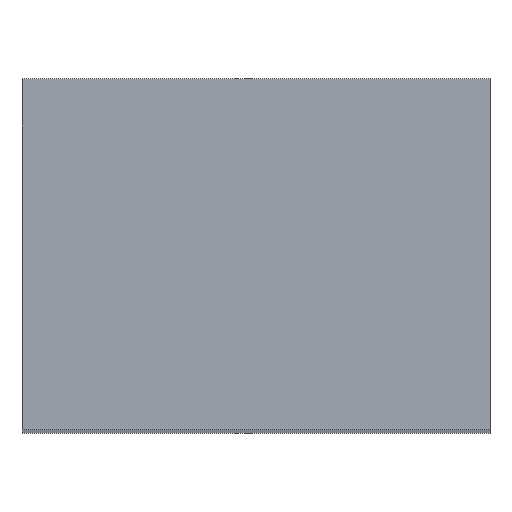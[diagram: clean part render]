
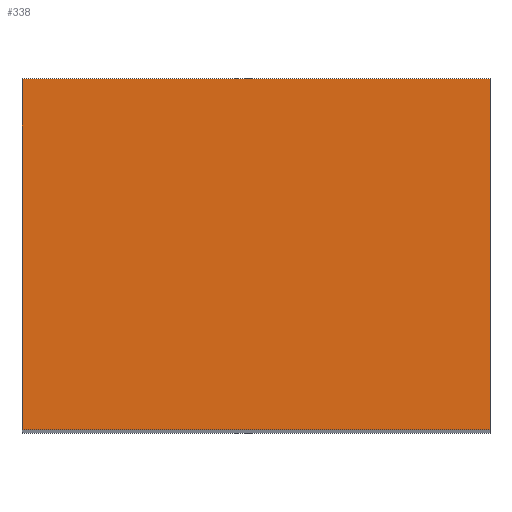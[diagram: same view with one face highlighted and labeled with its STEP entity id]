
A CAD part, top view. The second image highlights one B-rep face of the part: STEP entity #338.
In plain terms, the highlighted planar face has unit normal (0, 0, 1).
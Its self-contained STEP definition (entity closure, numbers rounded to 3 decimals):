
#24 = VERTEX_POINT('',#25);
#25 = CARTESIAN_POINT('',(132.,-90.913,90.));
#32 = PLANE('',#33);
#33 = AXIS2_PLACEMENT_3D('',#34,#35,#36);
#34 = CARTESIAN_POINT('',(132.,-90.913,74.));
#35 = DIRECTION('',(1.,0.,-0.));
#36 = DIRECTION('',(0.,0.,1.));
#44 = PLANE('',#45);
#45 = AXIS2_PLACEMENT_3D('',#46,#47,#48);
#46 = CARTESIAN_POINT('',(132.,-90.913,74.));
#47 = DIRECTION('',(-0.,1.,0.));
#48 = DIRECTION('',(0.,0.,1.));
#85 = VERTEX_POINT('',#86);
#86 = CARTESIAN_POINT('',(132.,-87.913,90.));
#100 = PLANE('',#101);
#101 = AXIS2_PLACEMENT_3D('',#102,#103,#104);
#102 = CARTESIAN_POINT('',(132.,-87.913,74.));
#103 = DIRECTION('',(-0.,1.,0.));
#104 = DIRECTION('',(0.,0.,1.));
#112 = EDGE_CURVE('',#24,#85,#113,.T.);
#113 = SURFACE_CURVE('',#114,(#118,#125),.PCURVE_S1.);
#114 = LINE('',#115,#116);
#115 = CARTESIAN_POINT('',(132.,-90.913,90.));
#116 = VECTOR('',#117,1.);
#117 = DIRECTION('',(-0.,1.,0.));
#118 = PCURVE('',#32,#119);
#119 = DEFINITIONAL_REPRESENTATION('',(#120),#124);
#120 = LINE('',#121,#122);
#121 = CARTESIAN_POINT('',(16.,0.));
#122 = VECTOR('',#123,1.);
#123 = DIRECTION('',(0.,-1.));
#124 = ( GEOMETRIC_REPRESENTATION_CONTEXT(2) 
PARAMETRIC_REPRESENTATION_CONTEXT() REPRESENTATION_CONTEXT('2D SPACE',''
  ) );
#125 = PCURVE('',#126,#131);
#126 = PLANE('',#127);
#127 = AXIS2_PLACEMENT_3D('',#128,#129,#130);
#128 = CARTESIAN_POINT('',(132.,-90.913,90.));
#129 = DIRECTION('',(0.,0.,1.));
#130 = DIRECTION('',(1.,0.,-0.));
#131 = DEFINITIONAL_REPRESENTATION('',(#132),#136);
#132 = LINE('',#133,#134);
#133 = CARTESIAN_POINT('',(0.,0.));
#134 = VECTOR('',#135,1.);
#135 = DIRECTION('',(0.,1.));
#136 = ( GEOMETRIC_REPRESENTATION_CONTEXT(2) 
PARAMETRIC_REPRESENTATION_CONTEXT() REPRESENTATION_CONTEXT('2D SPACE',''
  ) );
#144 = VERTEX_POINT('',#145);
#145 = CARTESIAN_POINT('',(136.,-90.913,90.));
#152 = PLANE('',#153);
#153 = AXIS2_PLACEMENT_3D('',#154,#155,#156);
#154 = CARTESIAN_POINT('',(136.,-90.913,74.));
#155 = DIRECTION('',(1.,0.,-0.));
#156 = DIRECTION('',(0.,0.,1.));
#195 = VERTEX_POINT('',#196);
#196 = CARTESIAN_POINT('',(136.,-87.913,90.));
#217 = EDGE_CURVE('',#144,#195,#218,.T.);
#218 = SURFACE_CURVE('',#219,(#223,#230),.PCURVE_S1.);
#219 = LINE('',#220,#221);
#220 = CARTESIAN_POINT('',(136.,-90.913,90.));
#221 = VECTOR('',#222,1.);
#222 = DIRECTION('',(-0.,1.,0.));
#223 = PCURVE('',#152,#224);
#224 = DEFINITIONAL_REPRESENTATION('',(#225),#229);
#225 = LINE('',#226,#227);
#226 = CARTESIAN_POINT('',(16.,0.));
#227 = VECTOR('',#228,1.);
#228 = DIRECTION('',(0.,-1.));
#229 = ( GEOMETRIC_REPRESENTATION_CONTEXT(2) 
PARAMETRIC_REPRESENTATION_CONTEXT() REPRESENTATION_CONTEXT('2D SPACE',''
  ) );
#230 = PCURVE('',#126,#231);
#231 = DEFINITIONAL_REPRESENTATION('',(#232),#236);
#232 = LINE('',#233,#234);
#233 = CARTESIAN_POINT('',(4.,0.));
#234 = VECTOR('',#235,1.);
#235 = DIRECTION('',(0.,1.));
#236 = ( GEOMETRIC_REPRESENTATION_CONTEXT(2) 
PARAMETRIC_REPRESENTATION_CONTEXT() REPRESENTATION_CONTEXT('2D SPACE',''
  ) );
#263 = EDGE_CURVE('',#24,#144,#264,.T.);
#264 = SURFACE_CURVE('',#265,(#269,#276),.PCURVE_S1.);
#265 = LINE('',#266,#267);
#266 = CARTESIAN_POINT('',(132.,-90.913,90.));
#267 = VECTOR('',#268,1.);
#268 = DIRECTION('',(1.,0.,-0.));
#269 = PCURVE('',#44,#270);
#270 = DEFINITIONAL_REPRESENTATION('',(#271),#275);
#271 = LINE('',#272,#273);
#272 = CARTESIAN_POINT('',(16.,0.));
#273 = VECTOR('',#274,1.);
#274 = DIRECTION('',(0.,1.));
#275 = ( GEOMETRIC_REPRESENTATION_CONTEXT(2) 
PARAMETRIC_REPRESENTATION_CONTEXT() REPRESENTATION_CONTEXT('2D SPACE',''
  ) );
#276 = PCURVE('',#126,#277);
#277 = DEFINITIONAL_REPRESENTATION('',(#278),#282);
#278 = LINE('',#279,#280);
#279 = CARTESIAN_POINT('',(0.,0.));
#280 = VECTOR('',#281,1.);
#281 = DIRECTION('',(1.,0.));
#282 = ( GEOMETRIC_REPRESENTATION_CONTEXT(2) 
PARAMETRIC_REPRESENTATION_CONTEXT() REPRESENTATION_CONTEXT('2D SPACE',''
  ) );
#310 = EDGE_CURVE('',#85,#195,#311,.T.);
#311 = SURFACE_CURVE('',#312,(#316,#323),.PCURVE_S1.);
#312 = LINE('',#313,#314);
#313 = CARTESIAN_POINT('',(132.,-87.913,90.));
#314 = VECTOR('',#315,1.);
#315 = DIRECTION('',(1.,0.,-0.));
#316 = PCURVE('',#100,#317);
#317 = DEFINITIONAL_REPRESENTATION('',(#318),#322);
#318 = LINE('',#319,#320);
#319 = CARTESIAN_POINT('',(16.,0.));
#320 = VECTOR('',#321,1.);
#321 = DIRECTION('',(0.,1.));
#322 = ( GEOMETRIC_REPRESENTATION_CONTEXT(2) 
PARAMETRIC_REPRESENTATION_CONTEXT() REPRESENTATION_CONTEXT('2D SPACE',''
  ) );
#323 = PCURVE('',#126,#324);
#324 = DEFINITIONAL_REPRESENTATION('',(#325),#329);
#325 = LINE('',#326,#327);
#326 = CARTESIAN_POINT('',(0.,3.));
#327 = VECTOR('',#328,1.);
#328 = DIRECTION('',(1.,0.));
#329 = ( GEOMETRIC_REPRESENTATION_CONTEXT(2) 
PARAMETRIC_REPRESENTATION_CONTEXT() REPRESENTATION_CONTEXT('2D SPACE',''
  ) );
#338 = ADVANCED_FACE('',(#339),#126,.T.);
#339 = FACE_BOUND('',#340,.T.);
#340 = EDGE_LOOP('',(#341,#342,#343,#344));
#341 = ORIENTED_EDGE('',*,*,#112,.F.);
#342 = ORIENTED_EDGE('',*,*,#263,.T.);
#343 = ORIENTED_EDGE('',*,*,#217,.T.);
#344 = ORIENTED_EDGE('',*,*,#310,.F.);
